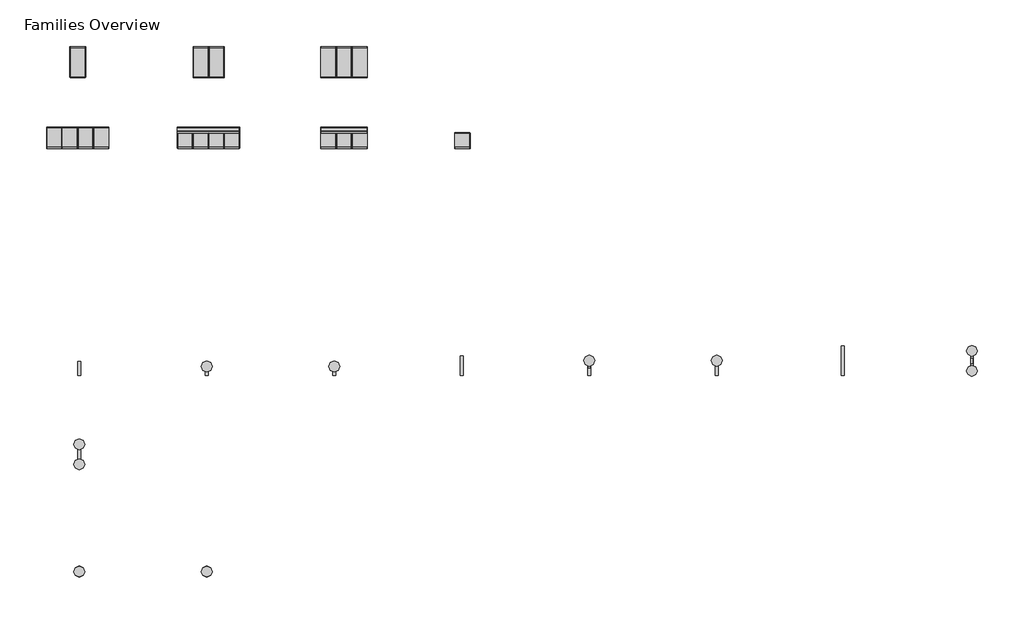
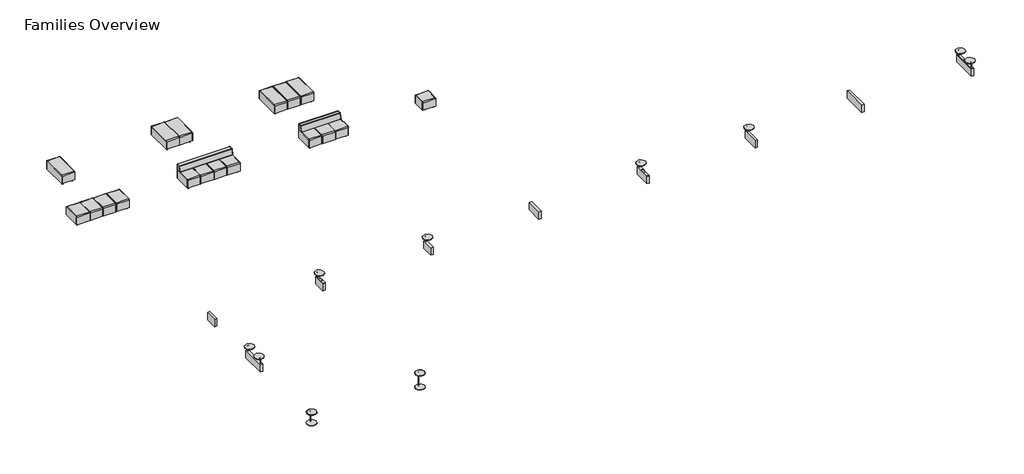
# One storey: 18 furniture elements.
"""IFC4 building model written with IfcOpenShell, lengths in millimetres."""

from ifc_helpers import new_model, si_unit, origin, place, context, project, spatial, transform, mapped, element, save
from components import furniture_49ca60f9, furniture_2ba87603, furniture_8759d724, furniture_19h_f9440e0b, furniture_20d_power_data_efb1d3a4, furniture_20d_tablet_445ab399, furniture_25h_4a59d33d, furniture_28d_power_data_fb55835c, furniture_28d_tablet_d484d864, furniture_42d_power_data_b036473e, furniture_42d_tablet_758c3c4a, four_seat_bench_2a4f48d7, four_seat_sofa_2ec21741, one_section_4a29e20e, ottoman_mobile_d823c06b, three_seat_sofa_db898eeb, three_section_b407b116, two_section_09929254

model = new_model("IFC4")

# Units and contexts
model_context = context("Model", 3, world=origin())
ifc_project = project(units=[si_unit("LENGTHUNIT", "METRE", prefix="MILLI")], contexts=[model_context])

# Site, building, storey
site = spatial("IfcSite", under=ifc_project)
building = spatial("IfcBuilding", under=site)
storey = spatial("IfcBuildingStorey", under=building, Name="Families Overview", Elevation=0.0)

# Furniture
placement = place(None, origin())
furniture_shape = furniture_49ca60f9(model_context)
element("IfcFurniture", 1, ObjectType="Coalesse_AM_Table_Occasional_Await_Connector : 20D - No Tablet", at=placement, inside=storey, context=model_context, shape_type="MappedRepresentation", body=[
    mapped(furniture_shape, transform((-34832.2260534, 30737.4165076, 0.0), x_axis=(1.0, 0.0, 0.0), y_axis=(0.0, 1.0, 0.0), z_axis=(0.0, 0.0, 1.0))),
])
furniture_2_shape = furniture_2ba87603(model_context)
element("IfcFurniture", 2, ObjectType="Coalesse_AM_Table_Occasional_Await_Connector : 28D - No Tablet", at=placement, inside=storey, context=model_context, shape_type="MappedRepresentation", body=[
    mapped(furniture_2_shape, transform((-21116.2260534, 30737.4165076, 0.0), x_axis=(1.0, 0.0, 0.0), y_axis=(0.0, 1.0, 0.0), z_axis=(0.0, 0.0, 1.0))),
])
furniture_3_shape = furniture_8759d724(model_context)
element("IfcFurniture", 3, ObjectType="Coalesse_AM_Table_Occasional_Await_Connector : 42D - No Tablet", at=placement, inside=storey, context=model_context, shape_type="MappedRepresentation", body=[
    mapped(furniture_3_shape, transform((-7457.3760534, 30737.4165076, 0.0), x_axis=(1.0, 0.0, 0.0), y_axis=(0.0, 1.0, 0.0), z_axis=(0.0, 0.0, 1.0))),
])
furniture_19h_shape = furniture_19h_f9440e0b(model_context)
element("IfcFurniture", 4, ObjectType="Coalesse_AM_Table_Occasional_Await_Freestanding : 19H", at=placement, inside=storey, context=model_context, shape_type="MappedRepresentation", body=[
    mapped(furniture_19h_shape, transform((-35079.7298633, 23225.043363, 0.0), x_axis=(1.0, 0.0, 0.0), y_axis=(0.0, 1.0, 0.0), z_axis=(0.0, 0.0, 1.0))),
])
furniture_20d_power_data_shape = furniture_20d_power_data_efb1d3a4(model_context)
element("IfcFurniture", 5, ObjectType="Coalesse_AM_Table_Occasional_Await_Connector : 20D - Power/Data", at=placement, inside=storey, context=model_context, shape_type="MappedRepresentation", body=[
    mapped(furniture_20d_power_data_shape, transform((-30260.2260534, 30737.4165076, 0.0), x_axis=(1.0, 0.0, 0.0), y_axis=(0.0, 1.0, 0.0), z_axis=(0.0, 0.0, 1.0))),
])
furniture_20d_tablet_shape = furniture_20d_tablet_445ab399(model_context)
element("IfcFurniture", 6, ObjectType="Coalesse_AM_Table_Occasional_Await_Connector : 20D - Tablet", at=placement, inside=storey, context=model_context, shape_type="MappedRepresentation", body=[
    mapped(furniture_20d_tablet_shape, transform((-25688.2260534, 30737.4165076, 0.0), x_axis=(1.0, 0.0, 0.0), y_axis=(0.0, 1.0, 0.0), z_axis=(0.0, 0.0, 1.0))),
])
furniture_25h_shape = furniture_25h_4a59d33d(model_context)
element("IfcFurniture", 7, ObjectType="Coalesse_AM_Table_Occasional_Await_Freestanding : 25H", at=placement, inside=storey, context=model_context, shape_type="MappedRepresentation", body=[
    mapped(furniture_25h_shape, transform((-30507.7298633, 23225.043363, 0.0), x_axis=(1.0, 0.0, 0.0), y_axis=(0.0, 1.0, 0.0), z_axis=(0.0, 0.0, 1.0))),
])
furniture_28d_power_data_shape = furniture_28d_power_data_fb55835c(model_context)
element("IfcFurniture", 8, ObjectType="Coalesse_AM_Table_Occasional_Await_Connector : 28D - Power/Data", at=placement, inside=storey, context=model_context, shape_type="MappedRepresentation", body=[
    mapped(furniture_28d_power_data_shape, transform((-16544.2260534, 30737.4165076, 0.0), x_axis=(1.0, 0.0, 0.0), y_axis=(0.0, 1.0, 0.0), z_axis=(0.0, 0.0, 1.0))),
])
furniture_28d_tablet_shape = furniture_28d_tablet_d484d864(model_context)
element("IfcFurniture", 9, ObjectType="Coalesse_AM_Table_Occasional_Await_Connector : 28D - Tablet", at=placement, inside=storey, context=model_context, shape_type="MappedRepresentation", body=[
    mapped(furniture_28d_tablet_shape, transform((-11972.2260534, 30737.4165076, 0.0), x_axis=(1.0, 0.0, 0.0), y_axis=(0.0, 1.0, 0.0), z_axis=(0.0, 0.0, 1.0))),
])
furniture_42d_power_data_shape = furniture_42d_power_data_b036473e(model_context)
element("IfcFurniture", 10, ObjectType="Coalesse_AM_Table_Occasional_Await_Connector : 42D - Power/Data", at=placement, inside=storey, context=model_context, shape_type="MappedRepresentation", body=[
    mapped(furniture_42d_power_data_shape, transform((-2828.2260534, 30737.4165076, 0.0), x_axis=(1.0, 0.0, 0.0), y_axis=(0.0, 1.0, 0.0), z_axis=(0.0, 0.0, 1.0))),
])
furniture_42d_tablet_shape = furniture_42d_tablet_758c3c4a(model_context)
element("IfcFurniture", 11, ObjectType="Coalesse_AM_Table_Occasional_Await_Connector : 42D - Tablet", at=placement, inside=storey, context=model_context, shape_type="MappedRepresentation", body=[
    mapped(furniture_42d_tablet_shape, transform((-34832.2260534, 27384.6165076, 0.0), x_axis=(1.0, 0.0, 0.0), y_axis=(0.0, 1.0, 0.0), z_axis=(0.0, 0.0, 1.0))),
])
four_seat_bench_shape = four_seat_bench_2a4f48d7(model_context)
element("IfcFurniture", 12, ObjectType="Coalesse_AM_Seating_Sofa_Await_Modular : Four Seat Bench", at=placement, inside=storey, context=model_context, shape_type="MappedRepresentation", body=[
    mapped(four_seat_bench_shape, transform((-36006.9760413, 38928.7226783, 0.0), x_axis=(1.0, 0.0, 0.0), y_axis=(0.0, 1.0, 0.0), z_axis=(0.0, 0.0, 1.0))),
])
four_seat_sofa_shape = four_seat_sofa_2ec21741(model_context)
element("IfcFurniture", 13, ObjectType="Coalesse_AM_Seating_Sofa_Await_Modular : Four Seat Sofa", at=placement, inside=storey, context=model_context, shape_type="MappedRepresentation", body=[
    mapped(four_seat_sofa_shape, transform((-31320.6760413, 38928.7226783, 0.0), x_axis=(1.0, 0.0, 0.0), y_axis=(0.0, 1.0, 0.0), z_axis=(0.0, 0.0, 1.0))),
])
one_section_shape = one_section_4a29e20e(model_context)
element("IfcFurniture", 14, ObjectType="Coalesse_AM_Seating_Sofa_Await_ConnectorBench : One Section", at=placement, inside=storey, context=model_context, shape_type="MappedRepresentation", body=[
    mapped(one_section_shape, transform((-35168.7760534, 41824.3226783, 0.0), x_axis=(1.0, 0.0, 0.0), y_axis=(0.0, 1.0, 0.0), z_axis=(0.0, 0.0, 1.0))),
])
ottoman_mobile_shape = ottoman_mobile_d823c06b(model_context)
element("IfcFurniture", 15, ObjectType="Coalesse_AM_Seating_Sofa_Await_Modular : Ottoman - Mobile", at=placement, inside=storey, context=model_context, shape_type="MappedRepresentation", body=[
    mapped(ottoman_mobile_shape, transform((-21376.5516465, 38725.5226783, 0.0), x_axis=(1.0, 0.0, 0.0), y_axis=(0.0, 1.0, 0.0), z_axis=(0.0, 0.0, 1.0))),
])
three_seat_sofa_shape = three_seat_sofa_db898eeb(model_context)
element("IfcFurniture", 16, ObjectType="Coalesse_AM_Seating_Sofa_Await_Modular : Three Seat Sofa", at=placement, inside=storey, context=model_context, shape_type="MappedRepresentation", body=[
    mapped(three_seat_sofa_shape, transform((-26180.6695684, 38928.7226783, 0.0), x_axis=(1.0, 0.0, 0.0), y_axis=(0.0, 1.0, 0.0), z_axis=(0.0, 0.0, 1.0))),
])
three_section_shape = three_section_b407b116(model_context)
element("IfcFurniture", 17, ObjectType="Coalesse_AM_Seating_Sofa_Await_ConnectorBench : Three Section", at=placement, inside=storey, context=model_context, shape_type="MappedRepresentation", body=[
    mapped(three_section_shape, transform((-26180.6695805, 41824.3226783, 0.0), x_axis=(1.0, 0.0, 0.0), y_axis=(0.0, 1.0, 0.0), z_axis=(0.0, 0.0, 1.0))),
])
two_section_shape = two_section_09929254(model_context)
element("IfcFurniture", 18, ObjectType="Coalesse_AM_Seating_Sofa_Await_ConnectorBench : Two Section", at=placement, inside=storey, context=model_context, shape_type="MappedRepresentation", body=[
    mapped(two_section_shape, transform((-30752.6695805, 41824.3226783, 0.0), x_axis=(1.0, 0.0, 0.0), y_axis=(0.0, 1.0, 0.0), z_axis=(0.0, 0.0, 1.0))),
])

save(model, "model.ifc")
